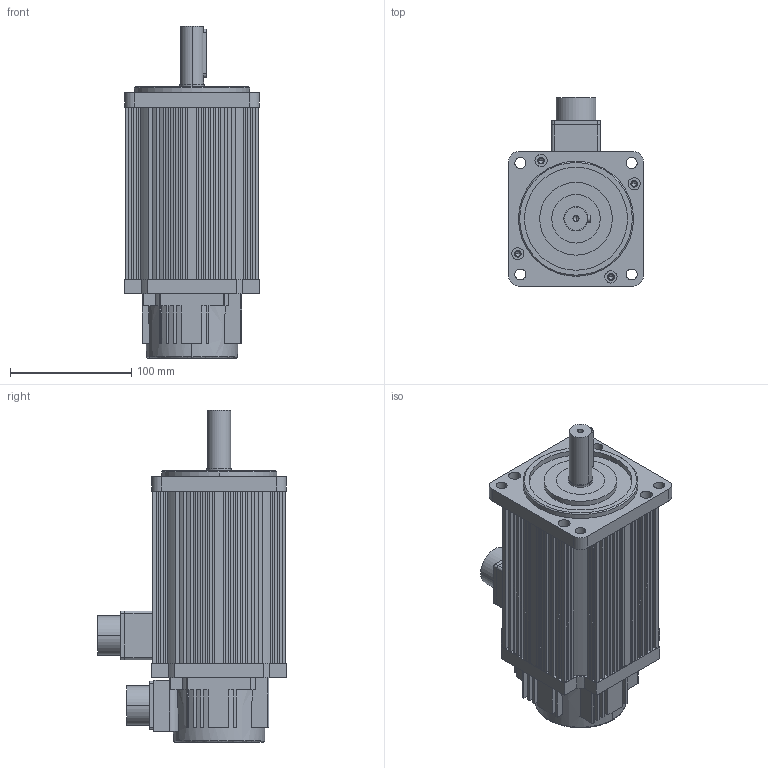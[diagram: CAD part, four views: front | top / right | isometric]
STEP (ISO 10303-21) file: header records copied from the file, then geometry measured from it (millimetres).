
FILE_DESCRIPTION (( 'STEP AP203' ), '1' );
FILE_NAME ('ASMJ-11-1830B-D322.STEP', '2024-06-03T09:42:15', ( 'Admin' ), ( '' ), 'SwSTEP 2.0', 'SolidWorks 2018', '' );
FILE_SCHEMA (( 'CONFIG_CONTROL_DESIGN' ));
Length unit declared in the file: millimetre
Products named in the file (1): ASMJ-11-1830B-D322
Bounding box: 111.2 x 155.9 x 274 mm (x, y, z)
Volume: 720192.5 mm3; surface area: 346175.4 mm2
Topology: 10 solids, 10 shells, 833 faces, 2253 edges, 1428 vertices
Faces by surface type: plane 439, cylinder 304, cone 49, bspline 41
Entity records: 27560 total; most frequent: CARTESIAN_POINT 6548, DIRECTION 4357, ORIENTED_EDGE 4342, EDGE_CURVE 2171, AXIS2_PLACEMENT_3D 1487, VERTEX_POINT 1428, VECTOR 1383, LINE 1383
